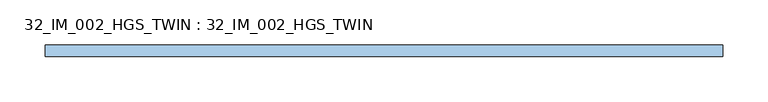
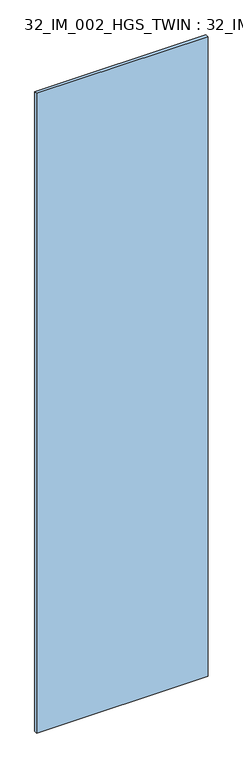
"""IFC4 building model written with IfcOpenShell, lengths in millimetres: window geometry, 32_IM_002_HGS_TWIN : 32_IM_002_HGS_TWIN."""

from ifc_helpers import new_model, si_unit, origin, origin_with_axes, place, context, project, spatial, polyline, outline, extrude, source, transform, mapped, element, save


def window_32_im_002_hgs_twin_32_im_002_hgs_twin_26124155(model_context):
    return source(origin(), model_context, "Body", "SweptSolid", [
        extrude(outline(polyline([(375.0, -6.4), (-375.0, -6.4), (-375.0, 6.4), (375.0, 6.4), (375.0, -6.4)])), origin_with_axes(), (0.0, 0.0, 1.0), 2956.0),
    ])


if __name__ == "__main__":
    model = new_model("IFC4")
    model_context = context("Model", 3, world=origin())
    ifc_project = project(units=[si_unit("LENGTHUNIT", "METRE", prefix="MILLI")], contexts=[model_context])
    site = spatial("IfcSite", under=ifc_project)
    building = spatial("IfcBuilding", under=site)
    placement = place(None, origin())
    window_32_im_002_hgs_twin_32_im_002_hgs_twin_shape = window_32_im_002_hgs_twin_32_im_002_hgs_twin_26124155(model_context)
    element("IfcWindow", 1, ObjectType="32_IM_002_HGS_TWIN : 32_IM_002_HGS_TWIN", at=placement, inside=building, context=model_context, shape_type="MappedRepresentation", body=[
        mapped(window_32_im_002_hgs_twin_32_im_002_hgs_twin_shape, transform((0.0, 0.0, 0.0), x_axis=(1.0, 0.0, 0.0), y_axis=(0.0, 1.0, 0.0), z_axis=(0.0, 0.0, 1.0))),
    ])
    save(model, "model.ifc")
